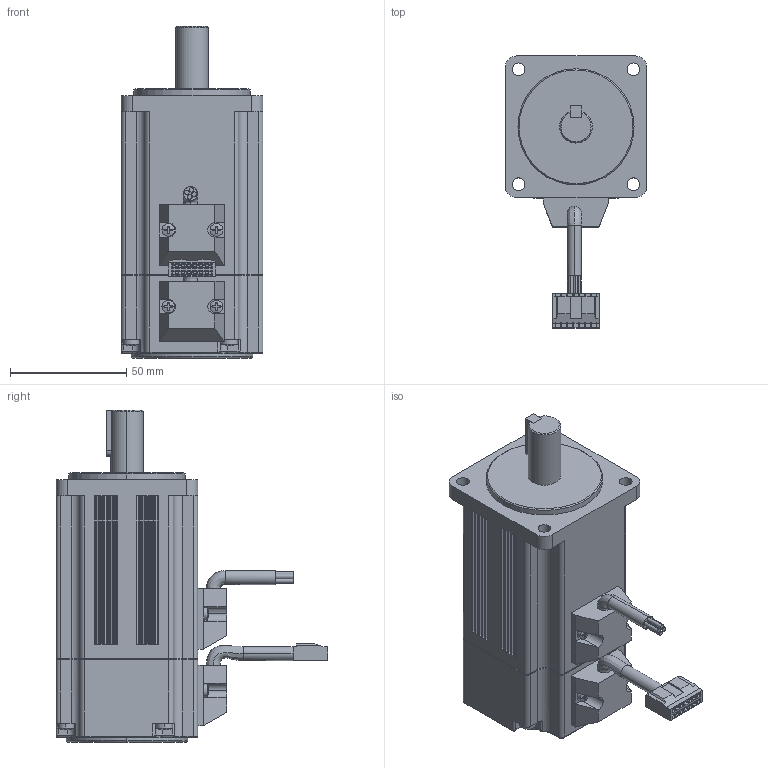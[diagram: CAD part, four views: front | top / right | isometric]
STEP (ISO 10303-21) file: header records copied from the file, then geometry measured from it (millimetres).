
FILE_DESCRIPTION (( 'STEP AP203' ), '1' );
FILE_NAME ('SE060AS-02.STEP', '2017-01-24T01:42:50', ( 'dell' ), ( 'Microsoft' ), 'SwSTEP 2.0', 'SolidWorks 2016', '' );
FILE_SCHEMA (( 'CONFIG_CONTROL_DESIGN' ));
Length unit declared in the file: millimetre
Products named in the file (9): 竘堤盄1; 竘堤盄2; cross recessed small pan head screws gb_GB_CROSS_SCREWS_TYPE3 M3X5-5-N; cross recessed small pan head screws gb_GB_CROSS_SCREWS_TYPE3 M4X5-5-N; 諉脣璃; SE060AS-02; SE060AS200儂旯; 綴裔; 揤盄輸
Assembly tree (15 placements, depth 2):
  SE060AS-02
    SE060AS200儂旯
    綴裔
    揤盄輸  x2
    竘堤盄1
    竘堤盄2
    cross recessed small pan head screws gb_GB_CROSS_SCREWS_TYPE3 M3X5-5-N  x4
    cross recessed small pan head screws gb_GB_CROSS_SCREWS_TYPE3 M4X5-5-N  x4
    諉脣璃
Bounding box: 61 x 117.03 x 143 mm (x, y, z)
Volume: 393952.2 mm3; surface area: 60242 mm2
Topology: 16 solids, 16 shells, 964 faces, 2427 edges, 1580 vertices
Faces by surface type: plane 575, cylinder 314, torus 30, bspline 24, sphere 16, cone 5
Entity records: 25448 total; most frequent: CARTESIAN_POINT 5108, DIRECTION 4059, ORIENTED_EDGE 3914, EDGE_CURVE 1957, AXIS2_PLACEMENT_3D 1379, VECTOR 1301, LINE 1301, VERTEX_POINT 1274
